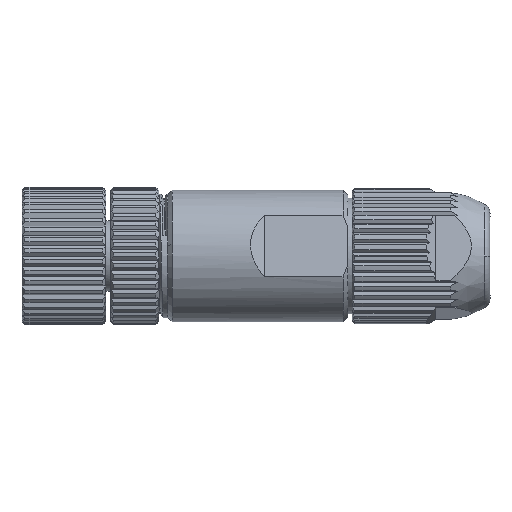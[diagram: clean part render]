
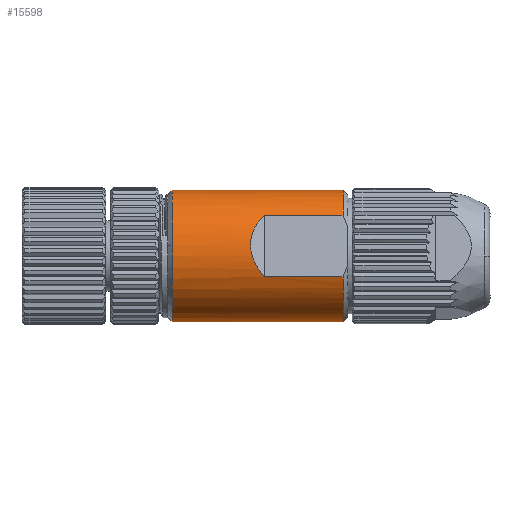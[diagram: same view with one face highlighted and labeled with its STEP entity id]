
A CAD part, left-side view. The second image highlights one B-rep face of the part: STEP entity #15598.
In plain terms, the highlighted cylindrical face has radius 6.7 mm (diameter 13.4 mm), a partial arc.
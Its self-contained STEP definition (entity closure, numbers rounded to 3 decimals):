
#823 = CARTESIAN_POINT ( 'NONE',  ( 3.994, -20.365, 17.612 ) ) ;
#1620 = CARTESIAN_POINT ( 'NONE',  ( 0.64, -20.365, 5.071 ) ) ;
#1730 = VECTOR ( 'NONE', #25740, 1000. ) ;
#2044 = CYLINDRICAL_SURFACE ( 'NONE', #2418, 6.7 ) ;
#2138 = VERTEX_POINT ( 'NONE', #15091 ) ;
#2184 = EDGE_CURVE ( 'NONE', #24320, #17518, #5919, .T. ) ;
#2418 = AXIS2_PLACEMENT_3D ( 'NONE', #7005, #3478, #25608 ) ;
#2562 = ORIENTED_EDGE ( 'NONE', *, *, #21322, .T. ) ;
#3120 = CARTESIAN_POINT ( 'NONE',  ( -2.701, -10.979, 11.524 ) ) ;
#3478 = DIRECTION ( 'NONE',  ( 0., 1., 0. ) ) ;
#3553 = B_SPLINE_CURVE_WITH_KNOTS ( 'NONE', 3,
 ( #14172, #22156, #17941, #19894 ),
 .UNSPECIFIED., .F., .F.,
 ( 4, 4 ),
 ( 0., 1. ),
 .UNSPECIFIED. ) ;
#3969 = VERTEX_POINT ( 'NONE', #10968 ) ;
#4173 = CARTESIAN_POINT ( 'NONE',  ( 3.994, -20.365, 17.612 ) ) ;
#4221 = CARTESIAN_POINT ( 'NONE',  ( -1.273, -20.365, 15.054 ) ) ;
#4403 = CARTESIAN_POINT ( 'NONE',  ( -1.961, -11.45, 14.179 ) ) ;
#4568 = B_SPLINE_CURVE_WITH_KNOTS ( 'NONE', 3,
 ( #7078, #12970, #21651, #21034, #11567, #25596 ),
 .UNSPECIFIED., .F., .F.,
 ( 4, 2, 4 ),
 ( 0., 0.21, 0.42 ),
 .UNSPECIFIED. ) ;
#4585 = CARTESIAN_POINT ( 'NONE',  ( 3.994, -20.365, 4.212 ) ) ;
#4617 = CARTESIAN_POINT ( 'NONE',  ( -2.364, -20.365, 8.799 ) ) ;
#4704 = VERTEX_POINT ( 'NONE', #11889 ) ;
#5063 = CARTESIAN_POINT ( 'NONE',  ( 3.994, -20.365, 17.612 ) ) ;
#5092 = CARTESIAN_POINT ( 'NONE',  ( 3.994, -24.065, 4.212 ) ) ;
#5141 = CARTESIAN_POINT ( 'NONE',  ( -2.607, -3.015, 12.064 ) ) ;
#5198 = B_SPLINE_CURVE_WITH_KNOTS ( 'NONE', 3,
 ( #23820, #25845, #7632, #13831, #1620, #19726, #20605, #14535, #14801, #4617 ),
 .UNSPECIFIED., .F., .F.,
 ( 4, 2, 2, 2, 4 ),
 ( 0.42, 0.565, 0.71, 0.855, 1. ),
 .UNSPECIFIED. ) ;
#5206 = AXIS2_PLACEMENT_3D ( 'NONE', #16466, #20510, #6381 ) ;
#5621 = CARTESIAN_POINT ( 'NONE',  ( -2.607, -10.979, 12.064 ) ) ;
#5666 = VERTEX_POINT ( 'NONE', #4221 ) ;
#5703 = ORIENTED_EDGE ( 'NONE', *, *, #14250, .T. ) ;
#5760 = ORIENTED_EDGE ( 'NONE', *, *, #25573, .T. ) ;
#5914 = ORIENTED_EDGE ( 'NONE', *, *, #6357, .T. ) ;
#5919 = LINE ( 'NONE', #5092, #20684 ) ;
#5942 = CARTESIAN_POINT ( 'NONE',  ( 3.994, -3.015, 4.212 ) ) ;
#6357 = EDGE_CURVE ( 'NONE', #3969, #5666, #7098, .T. ) ;
#6381 = DIRECTION ( 'NONE',  ( 0., 0., 1. ) ) ;
#6534 = CARTESIAN_POINT ( 'NONE',  ( -2.415, -10.979, 13.162 ) ) ;
#7005 = CARTESIAN_POINT ( 'NONE',  ( 3.994, -24.065, 10.912 ) ) ;
#7078 = CARTESIAN_POINT ( 'NONE',  ( -1.273, -20.365, 15.054 ) ) ;
#7098 = LINE ( 'NONE', #9529, #1730 ) ;
#7294 = DIRECTION ( 'NONE',  ( 0., 1., 0. ) ) ;
#7342 = ORIENTED_EDGE ( 'NONE', *, *, #16136, .T. ) ;
#7632 = CARTESIAN_POINT ( 'NONE',  ( 2.598, -20.365, 4.322 ) ) ;
#8253 =( BOUNDED_CURVE ( )  B_SPLINE_CURVE ( 3, ( #9873, #6534, #4403, #8299 ),
 .UNSPECIFIED., .F., .T. ) 
 B_SPLINE_CURVE_WITH_KNOTS ( ( 4, 4 ),
 ( 0., 0.494 ),
 .UNSPECIFIED. ) 
 CURVE ( )  GEOMETRIC_REPRESENTATION_ITEM ( )  RATIONAL_B_SPLINE_CURVE ( ( 1., 0.98, 0.98, 1. ) ) 
 REPRESENTATION_ITEM ( '' )  );
#8299 = CARTESIAN_POINT ( 'NONE',  ( -1.273, -12.365, 15.054 ) ) ;
#8845 = CARTESIAN_POINT ( 'NONE',  ( -2.683, -11.36, 10.348 ) ) ;
#8875 = ORIENTED_EDGE ( 'NONE', *, *, #22174, .T. ) ;
#9028 = CARTESIAN_POINT ( 'NONE',  ( 3.994, -3.015, 10.912 ) ) ;
#9099 = CARTESIAN_POINT ( 'NONE',  ( -2.453, -12.135, 9.065 ) ) ;
#9204 = DIRECTION ( 'NONE',  ( 0., 0., 1. ) ) ;
#9529 = CARTESIAN_POINT ( 'NONE',  ( -1.273, -24.065, 15.054 ) ) ;
#9828 = ORIENTED_EDGE ( 'NONE', *, *, #18696, .T. ) ;
#9873 = CARTESIAN_POINT ( 'NONE',  ( -2.607, -10.979, 12.064 ) ) ;
#10968 = CARTESIAN_POINT ( 'NONE',  ( -1.273, -12.365, 15.054 ) ) ;
#11198 = VERTEX_POINT ( 'NONE', #5621 ) ;
#11567 = CARTESIAN_POINT ( 'NONE',  ( 2.984, -20.365, 17.612 ) ) ;
#11889 = CARTESIAN_POINT ( 'NONE',  ( 3.994, -3.015, 17.612 ) ) ;
#12152 = CIRCLE ( 'NONE', #5206, 6.7 ) ;
#12968 = CARTESIAN_POINT ( 'NONE',  ( -2.604, -11.675, 9.74 ) ) ;
#12970 = CARTESIAN_POINT ( 'NONE',  ( -0.648, -20.365, 15.848 ) ) ;
#12974 = CARTESIAN_POINT ( 'NONE',  ( 3.994, -20.365, 17.612 ) ) ;
#13013 = B_SPLINE_CURVE_WITH_KNOTS ( 'NONE', 3,
 ( #21030, #9099, #17073, #12968, #13138, #23202, #16973, #23120, #8845, #22848, #3120, #24788 ),
 .UNSPECIFIED., .F., .F.,
 ( 4, 2, 2, 2, 2, 4 ),
 ( 0., 0.25, 0.375, 0.438, 0.5, 1. ),
 .UNSPECIFIED. ) ;
#13031 = CIRCLE ( 'NONE', #21871, 6.7 ) ;
#13138 = CARTESIAN_POINT ( 'NONE',  ( -2.627, -11.596, 9.875 ) ) ;
#13363 = CARTESIAN_POINT ( 'NONE',  ( 3.994, -20.365, 17.612 ) ) ;
#13400 = B_SPLINE_CURVE_WITH_KNOTS ( 'NONE', 3,
 ( #12974, #17084, #823, #5063 ),
 .UNSPECIFIED., .F., .F.,
 ( 4, 4 ),
 ( 0.42, 0.42 ),
 .UNSPECIFIED. ) ;
#13571 = VERTEX_POINT ( 'NONE', #15710 ) ;
#13611 = ORIENTED_EDGE ( 'NONE', *, *, #2184, .F. ) ;
#13712 = FACE_OUTER_BOUND ( 'NONE', #25045, .T. ) ;
#13831 = CARTESIAN_POINT ( 'NONE',  ( 1.27, -20.365, 4.751 ) ) ;
#14172 = CARTESIAN_POINT ( 'NONE',  ( -2.364, -20.365, 8.799 ) ) ;
#14250 = EDGE_CURVE ( 'NONE', #2138, #13571, #3553, .T. ) ;
#14535 = CARTESIAN_POINT ( 'NONE',  ( -1.82, -20.365, 7.51 ) ) ;
#14801 = CARTESIAN_POINT ( 'NONE',  ( -2.144, -20.365, 8.137 ) ) ;
#15091 = CARTESIAN_POINT ( 'NONE',  ( -2.364, -20.365, 8.799 ) ) ;
#15509 = VECTOR ( 'NONE', #22349, 1000. ) ;
#15598 = ADVANCED_FACE ( 'NONE', ( #13712 ), #2044, .T. ) ;
#15710 = CARTESIAN_POINT ( 'NONE',  ( -2.364, -12.365, 8.799 ) ) ;
#16136 = EDGE_CURVE ( 'NONE', #18615, #23616, #13400, .T. ) ;
#16466 = CARTESIAN_POINT ( 'NONE',  ( 3.994, -3.015, 10.912 ) ) ;
#16973 = CARTESIAN_POINT ( 'NONE',  ( -2.663, -11.454, 10.146 ) ) ;
#17073 = CARTESIAN_POINT ( 'NONE',  ( -2.524, -11.934, 9.334 ) ) ;
#17084 = CARTESIAN_POINT ( 'NONE',  ( 3.994, -20.365, 17.612 ) ) ;
#17096 = ORIENTED_EDGE ( 'NONE', *, *, #25870, .T. ) ;
#17262 = ORIENTED_EDGE ( 'NONE', *, *, #24754, .T. ) ;
#17518 = VERTEX_POINT ( 'NONE', #5942 ) ;
#17941 = CARTESIAN_POINT ( 'NONE',  ( -2.364, -15.031, 8.799 ) ) ;
#18615 = VERTEX_POINT ( 'NONE', #4173 ) ;
#18696 = EDGE_CURVE ( 'NONE', #24320, #2138, #5198, .T. ) ;
#19726 = CARTESIAN_POINT ( 'NONE',  ( -0.492, -20.365, 5.887 ) ) ;
#19894 = CARTESIAN_POINT ( 'NONE',  ( -2.364, -12.365, 8.799 ) ) ;
#20178 = CARTESIAN_POINT ( 'NONE',  ( 3.994, -24.065, 17.612 ) ) ;
#20419 = EDGE_CURVE ( 'NONE', #13571, #11198, #13013, .T. ) ;
#20510 = DIRECTION ( 'NONE',  ( 0., -1., 0. ) ) ;
#20605 = CARTESIAN_POINT ( 'NONE',  ( -0.994, -20.365, 6.384 ) ) ;
#20684 = VECTOR ( 'NONE', #7294, 1000. ) ;
#21030 = CARTESIAN_POINT ( 'NONE',  ( -2.364, -12.365, 8.799 ) ) ;
#21034 = CARTESIAN_POINT ( 'NONE',  ( 1.975, -20.365, 17.38 ) ) ;
#21322 = EDGE_CURVE ( 'NONE', #5666, #18615, #4568, .T. ) ;
#21651 = CARTESIAN_POINT ( 'NONE',  ( 0.158, -20.365, 16.498 ) ) ;
#21871 = AXIS2_PLACEMENT_3D ( 'NONE', #9028, #23038, #9204 ) ;
#21941 = ORIENTED_EDGE ( 'NONE', *, *, #20419, .T. ) ;
#22156 = CARTESIAN_POINT ( 'NONE',  ( -2.364, -17.698, 8.799 ) ) ;
#22174 = EDGE_CURVE ( 'NONE', #22945, #17518, #12152, .T. ) ;
#22349 = DIRECTION ( 'NONE',  ( 0., 1., 0. ) ) ;
#22848 = CARTESIAN_POINT ( 'NONE',  ( -2.729, -11.096, 10.969 ) ) ;
#22945 = VERTEX_POINT ( 'NONE', #5141 ) ;
#23038 = DIRECTION ( 'NONE',  ( 0., -1., 0. ) ) ;
#23120 = CARTESIAN_POINT ( 'NONE',  ( -2.677, -11.39, 10.282 ) ) ;
#23202 = CARTESIAN_POINT ( 'NONE',  ( -2.655, -11.489, 10.078 ) ) ;
#23616 = VERTEX_POINT ( 'NONE', #13363 ) ;
#23820 = CARTESIAN_POINT ( 'NONE',  ( 3.994, -20.365, 4.212 ) ) ;
#23965 = LINE ( 'NONE', #20178, #15509 ) ;
#24320 = VERTEX_POINT ( 'NONE', #4585 ) ;
#24754 = EDGE_CURVE ( 'NONE', #23616, #4704, #23965, .T. ) ;
#24788 = CARTESIAN_POINT ( 'NONE',  ( -2.607, -10.979, 12.064 ) ) ;
#25045 = EDGE_LOOP ( 'NONE', ( #13611, #9828, #5703, #21941, #17096, #5914, #2562, #7342, #17262, #5760, #8875 ) ) ;
#25573 = EDGE_CURVE ( 'NONE', #4704, #22945, #13031, .T. ) ;
#25596 = CARTESIAN_POINT ( 'NONE',  ( 3.994, -20.365, 17.612 ) ) ;
#25608 = DIRECTION ( 'NONE',  ( 0., 0., 1. ) ) ;
#25740 = DIRECTION ( 'NONE',  ( 0., -1., 0. ) ) ;
#25845 = CARTESIAN_POINT ( 'NONE',  ( 3.296, -20.365, 4.212 ) ) ;
#25870 = EDGE_CURVE ( 'NONE', #11198, #3969, #8253, .T. ) ;
